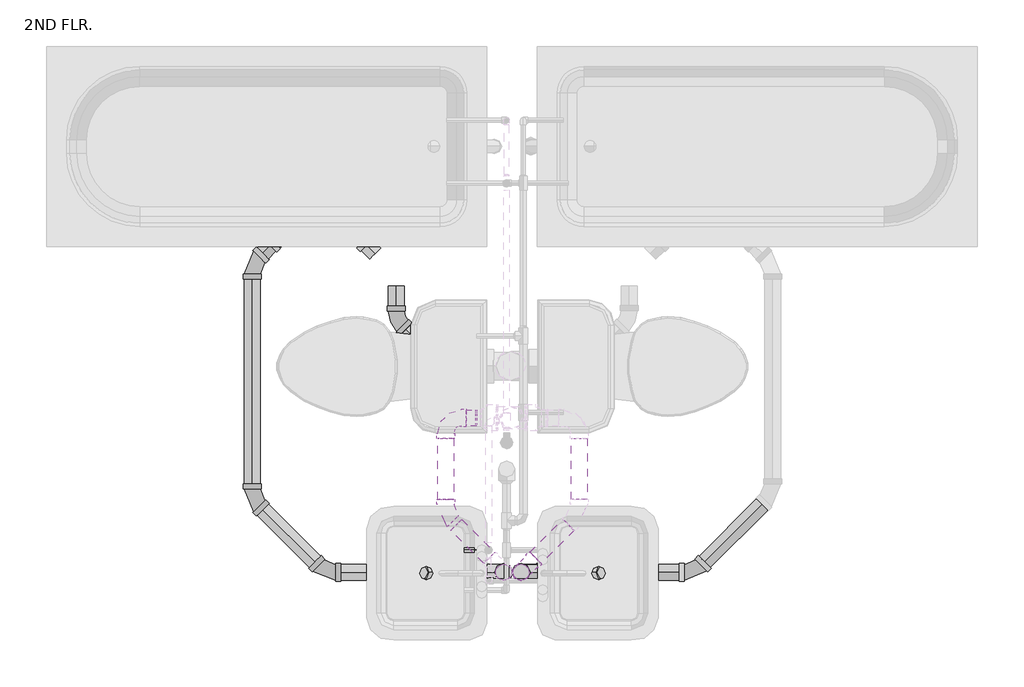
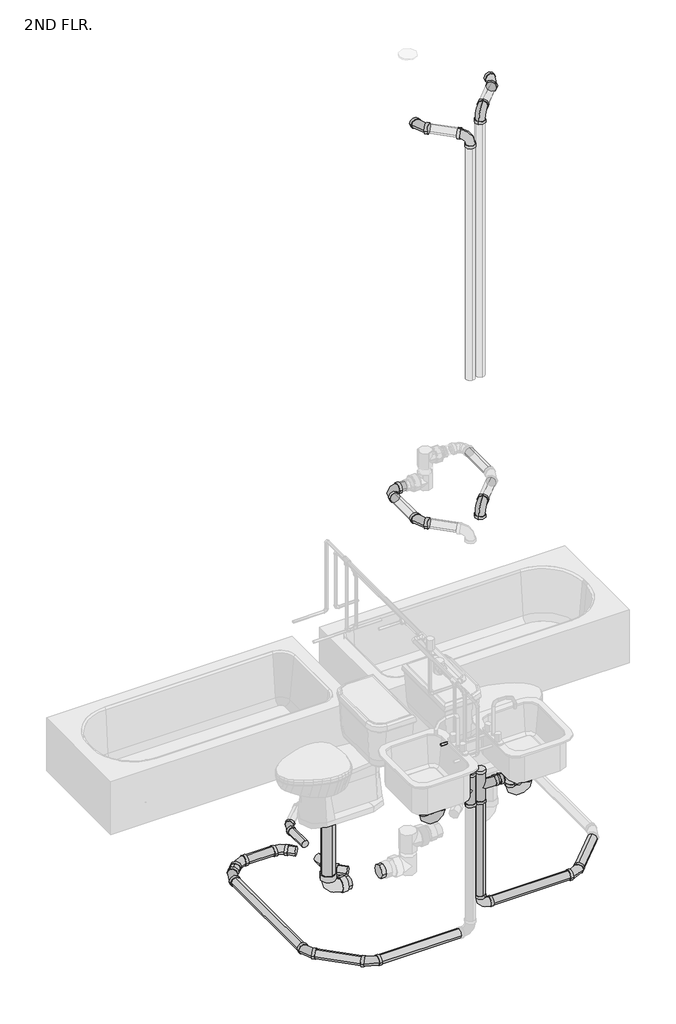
# One storey, part 2 of 15: 33 pipe segments, 22 pipe fittings.
"""IFC4 building model written with IfcOpenShell, lengths in millimetres."""

from ifc_helpers import new_model, si_unit, point, frame, frame_2d, origin, place, context, project, spatial, circle_curve, trimmed, segment, composite_curve, outline, extrude, transform, mapped, element, save
from components import bend_pvc_sch_40_dwv_standard_e59a9f3a, bend_pvc_sch_40_dwv_standard_f2f5988a, bend_pvc_sch_40_dwv_standard_1eaeee76, bend_pvc_sch_40_dwv_standard_dc84db8a, bend_pvc_sch_40_dwv_standard_64a347df, bend_pvc_sch_40_dwv_standard_72717ed5, bend_pvc_sch_40_dwv_standard_49f8c181, bend_pvc_sch_40_dwv_standard_f64d1520, ges_wye_45_deg_reducing_pvc_sch_40_dwv_standard_31e91cc2, ges_wye_45_deg_reducing_pvc_sch_40_dwv_standard_a2c526eb, standard_73d07651, standard_8c31f35f

model = new_model("IFC4")

# Units and contexts
model_context = context("Model", 3, world=origin())
ifc_project = project(units=[si_unit("LENGTHUNIT", "METRE", prefix="MILLI")], contexts=[model_context])

# Site, building, storey
site = spatial("IfcSite", under=ifc_project)
building = spatial("IfcBuilding", under=site)
storey = spatial("IfcBuildingStorey", under=building, Name="2ND FLR.", Elevation=2844.8)

# Pipe fittings
placement = place(None, origin())
bend_pvc_sch_40_dwv_standard_shape = bend_pvc_sch_40_dwv_standard_e59a9f3a(model_context)
element("IfcPipeFitting", 1, ObjectType="Bend - PVC - Sch 40 - DWV : Standard", at=placement, inside=storey, context=model_context, shape_type="MappedRepresentation", body=[
    mapped(bend_pvc_sch_40_dwv_standard_shape, transform((1676.2806203, 3984.74622, 2303.9212536), x_axis=(-0.7071067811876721, -0.7071067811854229, 0.0), y_axis=(0.7071067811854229, -0.7071067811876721, 0.0), z_axis=(0.0, 0.0, 1.0))),
])
bend_pvc_sch_40_dwv_standard_2_shape = bend_pvc_sch_40_dwv_standard_f2f5988a(model_context)
element("IfcPipeFitting", 2, ObjectType="Bend - PVC - Sch 40 - DWV : Standard", at=placement, inside=storey, context=model_context, shape_type="MappedRepresentation", body=[
    mapped(bend_pvc_sch_40_dwv_standard_2_shape, transform((1407.2763671, 2535.4262323, 2303.4769275), x_axis=(0.7071067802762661, -0.7071067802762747, -5.074103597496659e-05), y_axis=(0.7071067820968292, 0.7071067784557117, 5.074103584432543e-05), z_axis=(0.0, -7.175866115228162e-05, 0.9999999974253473))),
])
element("IfcPipeFitting", 3, ObjectType="Bend - PVC - Sch 40 - DWV : Standard", at=placement, inside=storey, context=model_context, shape_type="MappedRepresentation", body=[
    mapped(bend_pvc_sch_40_dwv_standard_2_shape, transform((1127.6578381, 2815.3735586, 2303.8952447), x_axis=(0.0, -1.0, 0.0), y_axis=(0.9999999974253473, 0.0, -7.175866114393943e-05), z_axis=(7.175866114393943e-05, 0.0, 0.9999999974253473))),
])
element("IfcPipeFitting", 4, ObjectType="Bend - PVC - Sch 40 - DWV : Standard", at=placement, inside=storey, context=model_context, shape_type="MappedRepresentation", body=[
    mapped(bend_pvc_sch_40_dwv_standard_2_shape, transform((1127.6578381, 3711.4802538, 2303.8952447), x_axis=(-0.707106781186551, -0.707106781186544, 0.0), y_axis=(0.707106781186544, -0.707106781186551, 0.0), z_axis=(0.0, 0.0, 1.0))),
])
element("IfcPipeFitting", 5, ObjectType="Bend - PVC - Sch 40 - DWV : Standard", at=placement, inside=storey, context=model_context, shape_type="MappedRepresentation", body=[
    mapped(bend_pvc_sch_40_dwv_standard_2_shape, transform((1237.3759139, 3821.1983296, 2303.8952447), x_axis=(-1.0, 0.0, 0.0), y_axis=(0.0, -1.0, 0.0), z_axis=(0.0, 0.0, 1.0))),
])
element("IfcPipeFitting", 6, ObjectType="Bend - PVC - Sch 40 - DWV : Standard", at=placement, inside=storey, context=model_context, shape_type="MappedRepresentation", body=[
    mapped(bend_pvc_sch_40_dwv_standard_2_shape, transform((1864.3084882, 2756.9682177, 8039.1613447), x_axis=(2.761384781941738e-10, -0.9999999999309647, 1.1750347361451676e-05), y_axis=(0.9999999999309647, 1.3806781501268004e-10, -1.1750347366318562e-05), z_axis=(1.1750347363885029e-05, 1.175034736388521e-05, 0.9999999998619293))),
])
element("IfcPipeFitting", 7, ObjectType="Bend - PVC - Sch 40 - DWV : Standard", at=placement, inside=storey, context=model_context, shape_type="MappedRepresentation", body=[
    mapped(bend_pvc_sch_40_dwv_standard_2_shape, transform((1864.3084882, 2756.9013629, 5188.0113455), x_axis=(2.761384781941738e-10, -0.9999999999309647, 1.1750347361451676e-05), y_axis=(0.9999999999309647, 1.3806781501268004e-10, -1.1750347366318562e-05), z_axis=(1.1750347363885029e-05, 1.175034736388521e-05, 0.9999999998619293))),
])
bend_pvc_sch_40_dwv_standard_3_shape = bend_pvc_sch_40_dwv_standard_1eaeee76(model_context)
element("IfcPipeFitting", 8, ObjectType="Bend - PVC - Sch 40 - DWV : Standard", at=placement, inside=storey, context=model_context, shape_type="MappedRepresentation", body=[
    mapped(bend_pvc_sch_40_dwv_standard_3_shape, transform((2085.2449931, 2535.844278, 8039.0947608), x_axis=(0.0, 0.0, 1.0), y_axis=(-0.7071067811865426, 0.7071067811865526, 0.0), z_axis=(-0.7071067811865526, -0.7071067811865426, 0.0))),
])
bend_pvc_sch_40_dwv_standard_4_shape = bend_pvc_sch_40_dwv_standard_dc84db8a(model_context)
element("IfcPipeFitting", 9, ObjectType="Bend - PVC - Sch 40 - DWV : Standard", at=placement, inside=storey, context=model_context, shape_type="MappedRepresentation", body=[
    mapped(bend_pvc_sch_40_dwv_standard_4_shape, transform((1565.9080231, 3321.8387881, 2302.8699315), x_axis=(-0.9999739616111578, 0.0, -0.0072163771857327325), y_axis=(-0.0072163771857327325, 0.0, 0.9999739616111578), z_axis=(0.0, 1.0, 0.0))),
])
bend_pvc_sch_40_dwv_standard_5_shape = bend_pvc_sch_40_dwv_standard_64a347df(model_context)
element("IfcPipeFitting", 10, ObjectType="Bend - PVC - Sch 40 - DWV : Standard", at=placement, inside=storey, context=model_context, shape_type="MappedRepresentation", body=[
    mapped(bend_pvc_sch_40_dwv_standard_5_shape, transform((1676.2806203, 3498.1957368, 2303.9212536), x_axis=(0.0, -1.0, 0.0), y_axis=(0.9999186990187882, 0.0, 0.012751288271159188), z_axis=(-0.012751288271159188, 0.0, 0.9999186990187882))),
])
bend_pvc_sch_40_dwv_standard_6_shape = bend_pvc_sch_40_dwv_standard_72717ed5(model_context)
element("IfcPipeFitting", 11, ObjectType="Bend - PVC - Sch 40 - DWV : Standard", at=placement, inside=storey, context=model_context, shape_type="MappedRepresentation", body=[
    mapped(bend_pvc_sch_40_dwv_standard_6_shape, transform((1525.8654903, 3819.5043328, 2302.6162639), x_axis=(-0.7071067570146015, 0.7071067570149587, 0.00026147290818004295), y_axis=(-0.707106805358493, -0.7071067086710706, -0.0002614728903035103), z_axis=(0.0, -0.00036977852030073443, 0.9999999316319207))),
])
bend_pvc_sch_40_dwv_standard_7_shape = bend_pvc_sch_40_dwv_standard_49f8c181(model_context)
element("IfcPipeFitting", 12, ObjectType="Bend - PVC - Sch 40 - DWV : Standard", at=placement, inside=storey, context=model_context, shape_type="MappedRepresentation", body=[
    mapped(bend_pvc_sch_40_dwv_standard_7_shape, transform((2151.4347258, 2535.7849043, 2461.5904025), x_axis=(0.0, 0.0, -1.0), y_axis=(-1.0, 0.0, 0.0), z_axis=(0.0, 1.0, 0.0))),
])
element("IfcPipeFitting", 13, ObjectType="Bend - PVC - Sch 40 - DWV : Standard", at=placement, inside=storey, context=model_context, shape_type="MappedRepresentation", body=[
    mapped(bend_pvc_sch_40_dwv_standard_7_shape, transform((1864.3084875, 3124.2843904, 5188.0070013), x_axis=(0.0, 0.9999999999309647, -1.1750347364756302e-05), y_axis=(-1.0, 0.0, 0.0), z_axis=(0.0, 1.1750347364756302e-05, 0.9999999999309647))),
])
element("IfcPipeFitting", 14, ObjectType="Bend - PVC - Sch 40 - DWV : Standard", at=placement, inside=storey, context=model_context, shape_type="MappedRepresentation", body=[
    mapped(bend_pvc_sch_40_dwv_standard_7_shape, transform((2151.4348028, 2535.7814571, 8191.495709), x_axis=(0.0, 0.0, 1.0), y_axis=(-0.7071067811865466, -0.7071067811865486, 0.0), z_axis=(0.7071067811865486, -0.7071067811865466, 0.0))),
])
element("IfcPipeFitting", 15, ObjectType="Bend - PVC - Sch 40 - DWV : Standard", at=placement, inside=storey, context=model_context, shape_type="MappedRepresentation", body=[
    mapped(bend_pvc_sch_40_dwv_standard_7_shape, transform((2151.4348028, 2535.7814571, 5340.345709), x_axis=(0.0, 0.0, 1.0), y_axis=(-0.7071067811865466, -0.7071067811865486, 0.0), z_axis=(0.7071067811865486, -0.7071067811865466, 0.0))),
])
element("IfcPipeFitting", 16, ObjectType="Bend - PVC - Sch 40 - DWV : Standard", at=placement, inside=storey, context=model_context, shape_type="MappedRepresentation", body=[
    mapped(bend_pvc_sch_40_dwv_standard_7_shape, transform((1864.3084875, 3124.2539231, 5187.9916847), x_axis=(0.0, 0.9999999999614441, -8.78134569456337e-06), y_axis=(-1.0000000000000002, 0.0, 0.0), z_axis=(0.0, 8.78134569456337e-06, 0.9999999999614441))),
])
bend_pvc_sch_40_dwv_standard_8_shape = bend_pvc_sch_40_dwv_standard_f64d1520(model_context)
element("IfcPipeFitting", 17, ObjectType="Bend - PVC - Sch 40 - DWV : Standard", at=placement, inside=storey, context=model_context, shape_type="MappedRepresentation", body=[
    mapped(bend_pvc_sch_40_dwv_standard_8_shape, transform((2809.9937605, 2535.4334772, 2461.1578227), x_axis=(-0.70710678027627, -0.7071067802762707, -5.074103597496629e-05), y_axis=(0.7071067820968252, -0.7071067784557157, -5.074103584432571e-05), z_axis=(0.0, -7.175866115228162e-05, 0.9999999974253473))),
])
element("IfcPipeFitting", 18, ObjectType="Bend - PVC - Sch 40 - DWV : Standard", at=placement, inside=storey, context=model_context, shape_type="MappedRepresentation", body=[
    mapped(bend_pvc_sch_40_dwv_standard_8_shape, transform((2372.3084882, 2756.8461575, 8191.5613461), x_axis=(2.761384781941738e-10, -0.9999999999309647, 1.1750347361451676e-05), y_axis=(0.9999999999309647, 1.3806781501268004e-10, -1.1750347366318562e-05), z_axis=(1.1750347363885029e-05, 1.175034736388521e-05, 0.9999999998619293))),
])
ges_wye_45_deg_reducing_pvc_sch_40_dwv_standard_shape = ges_wye_45_deg_reducing_pvc_sch_40_dwv_standard_31e91cc2(model_context)
element("IfcPipeFitting", 19, ObjectType="GES Wye 45 Deg Reducing - PVC - Sch 40 - DWV : Standard", at=placement, inside=storey, context=model_context, shape_type="MappedRepresentation", body=[
    mapped(ges_wye_45_deg_reducing_pvc_sch_40_dwv_standard_shape, transform((2085.1822491, 2535.781534, 3322.6721683), x_axis=(0.0, 0.0, 1.0), y_axis=(1.0, 0.0, 0.0), z_axis=(0.0, 1.0, 0.0))),
])
ges_wye_45_deg_reducing_pvc_sch_40_dwv_standard_2_shape = ges_wye_45_deg_reducing_pvc_sch_40_dwv_standard_a2c526eb(model_context)
element("IfcPipeFitting", 20, ObjectType="GES Wye 45 Deg Reducing - PVC - Sch 40 - DWV : Standard", at=placement, inside=storey, context=model_context, shape_type="MappedRepresentation", body=[
    mapped(ges_wye_45_deg_reducing_pvc_sch_40_dwv_standard_2_shape, transform((2151.4347258, 2535.781534, 3322.6721683), x_axis=(0.0, 0.0, 1.0), y_axis=(1.0, 0.0, 0.0), z_axis=(0.0, 1.0, 0.0))),
])
standard_shape = standard_73d07651(model_context)
element("IfcPipeFitting", 21, ObjectType="GES P TRAP PVC Sch 40 - DWV : Standard", at=placement, inside=storey, context=model_context, shape_type="MappedRepresentation", body=[
    mapped(standard_shape, transform((1765.3699643, 2535.781534, 3322.6721683), x_axis=(0.0, 0.0, -1.0), y_axis=(1.0, 0.0, 0.0), z_axis=(0.0, -1.0, 0.0))),
])
standard_2_shape = standard_8c31f35f(model_context)
element("IfcPipeFitting", 22, ObjectType="GES P TRAP PVC Sch 40 - DWV : Standard", at=placement, inside=storey, context=model_context, shape_type="MappedRepresentation", body=[
    mapped(standard_2_shape, transform((2471.2470106, 2535.781534, 3322.6721683), x_axis=(0.0, 0.0, -1.0), y_axis=(1.0, 0.0, 0.0), z_axis=(0.0, -1.0, 0.0))),
])

# Pipe segments
element("IfcPipeSegment", 23, ObjectType="Copper", at=placement, inside=storey, context=model_context, shape_type="SweptSolid", body=[
    extrude(outline(composite_curve([segment(trimmed(circle_curve(frame_2d((2620.8535326, 3637.2601562)), 7.9375), [point((2628.7910326, 3637.2601562))], [point((2620.8535326, 3629.3226562))], False, "CARTESIAN"), True, "CONTINUOUS"), segment(trimmed(circle_curve(frame_2d((2620.8535326, 3637.2601562)), 7.9375), [point((2620.8535326, 3629.3226562))], [point((2612.9160326, 3637.2601562))], False, "CARTESIAN"), True, "CONTINUOUS"), segment(trimmed(circle_curve(frame_2d((2620.8535326, 3637.2601562)), 7.9375), [point((2612.9160326, 3637.2601562))], [point((2620.8535326, 3645.1976562))], False, "CARTESIAN"), True, "CONTINUOUS"), segment(trimmed(circle_curve(frame_2d((2620.8535326, 3637.2601562)), 7.9375), [point((2620.8535326, 3645.1976562))], [point((2628.7910326, 3637.2601562))], False, "CARTESIAN"), True, "CONTINUOUS")], self_intersect=False)), frame((1934.1584875, 0.0, 0.0), z_axis=(1.0, 0.0, 0.0), x_axis=(0.0, 1.0, 0.0)), (0.0, 0.0, 1.0), 76.2),
])
element("IfcPipeSegment", 24, ObjectType="PVC - SAN/STORM", at=placement, inside=storey, context=model_context, shape_type="SweptSolid", body=[
    extrude(outline(composite_curve([segment(trimmed(circle_curve(frame_2d((2471.2470106, 2535.781534)), 30.1625), [point((2441.0845106, 2535.781534))], [point((2471.2470106, 2565.944034))], False, "CARTESIAN"), True, "CONTINUOUS"), segment(trimmed(circle_curve(frame_2d((2471.2470106, 2535.781534)), 30.1625), [point((2471.2470106, 2565.944034))], [point((2501.4095106, 2535.781534))], False, "CARTESIAN"), True, "CONTINUOUS"), segment(trimmed(circle_curve(frame_2d((2471.2470106, 2535.781534)), 30.1625), [point((2501.4095106, 2535.781534))], [point((2471.2470106, 2505.619034))], False, "CARTESIAN"), True, "CONTINUOUS"), segment(trimmed(circle_curve(frame_2d((2471.2470106, 2535.781534)), 30.1625), [point((2471.2470106, 2505.619034))], [point((2441.0845106, 2535.781534))], False, "CARTESIAN"), True, "CONTINUOUS")], self_intersect=False)), frame((0.0, 0.0, 3275.0471683), z_axis=(0.0, 0.0, 1.0), x_axis=(1.0, 0.0, 0.0)), (0.0, 0.0, 1.0), 143.9539175),
])
element("IfcPipeSegment", 25, ObjectType="PVC - SAN/STORM", at=placement, inside=storey, context=model_context, shape_type="SweptSolid", body=[
    extrude(outline(composite_curve([segment(trimmed(circle_curve(frame_2d((2535.781534, 3322.6721683)), 30.1625), [point((2565.944034, 3322.6721683))], [point((2535.781534, 3292.5096683))], False, "CARTESIAN"), True, "CONTINUOUS"), segment(trimmed(circle_curve(frame_2d((2535.781534, 3322.6721683)), 30.1625), [point((2535.781534, 3292.5096683))], [point((2505.619034, 3322.6721683))], False, "CARTESIAN"), True, "CONTINUOUS"), segment(trimmed(circle_curve(frame_2d((2535.781534, 3322.6721683)), 30.1625), [point((2505.619034, 3322.6721683))], [point((2535.781534, 3352.8346683))], False, "CARTESIAN"), True, "CONTINUOUS"), segment(trimmed(circle_curve(frame_2d((2535.781534, 3322.6721683)), 30.1625), [point((2535.781534, 3352.8346683))], [point((2565.944034, 3322.6721683))], False, "CARTESIAN"), True, "CONTINUOUS")], self_intersect=False)), frame((2264.6830071, 0.0, 0.0), z_axis=(1.0, 0.0, 0.0), x_axis=(0.0, 1.0, 0.0)), (0.0, 0.0, 1.0), 14.4765036),
])
element("IfcPipeSegment", 26, ObjectType="PVC - SAN/STORM", at=placement, inside=storey, context=model_context, shape_type="SweptSolid", body=[
    extrude(outline(composite_curve([segment(trimmed(circle_curve(frame_2d((2471.2470106, 2535.781534)), 30.1625), [point((2441.0845106, 2535.781534))], [point((2471.2470106, 2565.944034))], False, "CARTESIAN"), True, "CONTINUOUS"), segment(trimmed(circle_curve(frame_2d((2471.2470106, 2535.781534)), 30.1625), [point((2471.2470106, 2565.944034))], [point((2501.4095106, 2535.781534))], False, "CARTESIAN"), True, "CONTINUOUS"), segment(trimmed(circle_curve(frame_2d((2471.2470106, 2535.781534)), 30.1625), [point((2501.4095106, 2535.781534))], [point((2471.2470106, 2505.619034))], False, "CARTESIAN"), True, "CONTINUOUS"), segment(trimmed(circle_curve(frame_2d((2471.2470106, 2535.781534)), 30.1625), [point((2471.2470106, 2505.619034))], [point((2441.0845106, 2535.781534))], False, "CARTESIAN"), True, "CONTINUOUS")], self_intersect=False)), frame((0.0, 0.0, 3275.0471683), z_axis=(0.0, 0.0, 1.0), x_axis=(1.0, 0.0, 0.0)), (0.0, 0.0, 1.0), 143.9539175),
])
element("IfcPipeSegment", 27, ObjectType="PVC - SAN/STORM", at=placement, inside=storey, context=model_context, shape_type="SweptSolid", body=[
    extrude(outline(composite_curve([segment(trimmed(circle_curve(frame_2d((0.0, -30.1625)), 30.1625), [point((-30.1625, -30.1625))], [point((0.0, 0.0))], False, "CARTESIAN"), True, "CONTINUOUS"), segment(trimmed(circle_curve(frame_2d((0.0, -30.1625)), 30.1625), [point((0.0, 0.0))], [point((30.1625, -30.1625))], False, "CARTESIAN"), True, "CONTINUOUS"), segment(trimmed(circle_curve(frame_2d((0.0, -30.1625)), 30.1625), [point((30.1625, -30.1625))], [point((0.0, -60.325))], False, "CARTESIAN"), True, "CONTINUOUS"), segment(trimmed(circle_curve(frame_2d((0.0, -30.1625)), 30.1625), [point((0.0, -60.325))], [point((-30.1625, -30.1625))], False, "CARTESIAN"), True, "CONTINUOUS")], self_intersect=False)), frame((2151.4347258, 2505.6224043, 2539.3904495), z_axis=(0.0, -5.070700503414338e-06, 0.9999999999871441), x_axis=(-1.0, 0.0, 0.0)), (0.0, 0.0, 1.0), 664.6556283),
])
element("IfcPipeSegment", 28, ObjectType="PVC - SAN/STORM", at=placement, inside=storey, context=model_context, shape_type="SweptSolid", body=[
    extrude(outline(composite_curve([segment(trimmed(circle_curve(frame_2d((2535.7849043, 2461.5904025)), 30.1625), [point((2505.6224043, 2461.5904025))], [point((2535.7849043, 2491.7529025))], False, "CARTESIAN"), True, "CONTINUOUS"), segment(trimmed(circle_curve(frame_2d((2535.7849043, 2461.5904025)), 30.1625), [point((2535.7849043, 2491.7529025))], [point((2565.9474043, 2461.5904025))], False, "CARTESIAN"), True, "CONTINUOUS"), segment(trimmed(circle_curve(frame_2d((2535.7849043, 2461.5904025)), 30.1625), [point((2565.9474043, 2461.5904025))], [point((2535.7849043, 2431.4279025))], False, "CARTESIAN"), True, "CONTINUOUS"), segment(trimmed(circle_curve(frame_2d((2535.7849043, 2461.5904025)), 30.1625), [point((2535.7849043, 2431.4279025))], [point((2505.6224043, 2461.5904025))], False, "CARTESIAN"), True, "CONTINUOUS")], self_intersect=False)), frame((2229.2349258, 0.0, 0.0), z_axis=(1.0, 0.0, 0.0), x_axis=(0.0, 1.0, 0.0)), (0.0, 0.0, 1.0), 523.9602929),
])
element("IfcPipeSegment", 29, ObjectType="PVC - SAN/STORM", at=placement, inside=storey, context=model_context, shape_type="SweptSolid", body=[
    extrude(outline(composite_curve([segment(trimmed(circle_curve(frame_2d((0.0, -30.1625)), 30.1625), [point((30.1625, -30.1640305))], [point((-0.0015305, -60.325))], False, "CARTESIAN"), True, "CONTINUOUS"), segment(trimmed(circle_curve(frame_2d((0.0, -30.1625)), 30.1625), [point((-0.0015305, -60.325))], [point((-30.1625, -30.1609695))], False, "CARTESIAN"), True, "CONTINUOUS"), segment(trimmed(circle_curve(frame_2d((0.0, -30.1625)), 30.1625), [point((-30.1625, -30.1609695))], [point((0.0015305, -1e-07))], False, "CARTESIAN"), True, "CONTINUOUS"), segment(trimmed(circle_curve(frame_2d((0.0, -30.1625)), 30.1625), [point((0.0015305, -1e-07))], [point((30.1625, -30.1640305))], False, "CARTESIAN"), True, "CONTINUOUS")], self_intersect=False)), frame((3068.5005336, 2794.2938419, 2491.7343523), z_axis=(-0.7071067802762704, -0.7071067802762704, 5.0741035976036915e-05), x_axis=(0.7071067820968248, -0.707106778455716, 5.0741035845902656e-05)), (0.0, 0.0, 1.0), 308.9308213),
])
element("IfcPipeSegment", 30, ObjectType="PVC - SAN/STORM", at=placement, inside=storey, context=model_context, shape_type="SweptSolid", body=[
    extrude(outline(composite_curve([segment(trimmed(circle_curve(frame_2d((5340.3463819, 2372.3084875)), 30.1625), [point((5340.3463819, 2402.4709875))], [point((5370.5088819, 2372.3084875))], False, "CARTESIAN"), True, "CONTINUOUS"), segment(trimmed(circle_curve(frame_2d((5340.3463819, 2372.3084875)), 30.1625), [point((5370.5088819, 2372.3084875))], [point((5340.3463819, 2342.1459875))], False, "CARTESIAN"), True, "CONTINUOUS"), segment(trimmed(circle_curve(frame_2d((5340.3463819, 2372.3084875)), 30.1625), [point((5340.3463819, 2342.1459875))], [point((5310.1838819, 2372.3084875))], False, "CARTESIAN"), True, "CONTINUOUS"), segment(trimmed(circle_curve(frame_2d((5340.3463819, 2372.3084875)), 30.1625), [point((5310.1838819, 2372.3084875))], [point((5340.3463819, 2402.4709875))], False, "CARTESIAN"), True, "CONTINUOUS")], self_intersect=False)), frame((0.0, 2813.929302, 0.0), z_axis=(0.0, 1.0, 0.0), x_axis=(0.0, 0.0, 1.0)), (0.0, 0.0, 1.0), 232.5584692),
])
element("IfcPipeSegment", 31, ObjectType="PVC - SAN/STORM", at=placement, inside=storey, context=model_context, shape_type="SweptSolid", body=[
    extrude(outline(composite_curve([segment(trimmed(circle_curve(frame_2d((0.0, -44.45)), 44.45), [point((0.0, 0.0))], [point((44.45, -44.45))], False, "CARTESIAN"), True, "CONTINUOUS"), segment(trimmed(circle_curve(frame_2d((0.0, -44.45)), 44.45), [point((44.45, -44.45))], [point((0.0, -88.9))], False, "CARTESIAN"), True, "CONTINUOUS"), segment(trimmed(circle_curve(frame_2d((0.0, -44.45)), 44.45), [point((0.0, -88.9))], [point((-44.45, -44.45))], False, "CARTESIAN"), True, "CONTINUOUS"), segment(trimmed(circle_curve(frame_2d((0.0, -44.45)), 44.45), [point((-44.45, -44.45))], [point((0.0, 0.0))], False, "CARTESIAN"), True, "CONTINUOUS")], self_intersect=False)), frame((1912.9609983, 3366.2887881, 2305.3744619), z_axis=(0.9999739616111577, 0.0, 0.0072163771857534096), x_axis=(0.0072163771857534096, 0.0, -0.9999739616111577)), (0.0, 0.0, 1.0), 27.3382317),
])
element("IfcPipeSegment", 32, ObjectType="PVC - SAN/STORM", at=placement, inside=storey, context=model_context, shape_type="SweptSolid", body=[
    extrude(outline(composite_curve([segment(trimmed(circle_curve(frame_2d((1565.9080231, 3321.8387881)), 44.45), [point((1521.4580231, 3321.8387881))], [point((1565.9080231, 3366.2887881))], False, "CARTESIAN"), True, "CONTINUOUS"), segment(trimmed(circle_curve(frame_2d((1565.9080231, 3321.8387881)), 44.45), [point((1565.9080231, 3366.2887881))], [point((1610.3580231, 3321.8387881))], False, "CARTESIAN"), True, "CONTINUOUS"), segment(trimmed(circle_curve(frame_2d((1565.9080231, 3321.8387881)), 44.45), [point((1610.3580231, 3321.8387881))], [point((1565.9080231, 3277.3887881))], False, "CARTESIAN"), True, "CONTINUOUS"), segment(trimmed(circle_curve(frame_2d((1565.9080231, 3321.8387881)), 44.45), [point((1565.9080231, 3277.3887881))], [point((1521.4580231, 3321.8387881))], False, "CARTESIAN"), True, "CONTINUOUS")], self_intersect=False)), frame((0.0, 0.0, 2418.7701315), z_axis=(0.0, 0.0, 1.0), x_axis=(1.0, 0.0, 0.0)), (0.0, 0.0, 1.0), 426.0298685),
])
element("IfcPipeSegment", 33, ObjectType="PVC - SAN/STORM", at=placement, inside=storey, context=model_context, shape_type="SweptSolid", body=[
    extrude(outline(composite_curve([segment(trimmed(circle_curve(frame_2d((0.0, 30.1625)), 30.1625), [point((30.1625, 30.1625))], [point((0.0, 0.0))], False, "CARTESIAN"), True, "CONTINUOUS"), segment(trimmed(circle_curve(frame_2d((0.0, 30.1625)), 30.1625), [point((0.0, 0.0))], [point((-30.1625, 30.1625))], False, "CARTESIAN"), True, "CONTINUOUS"), segment(trimmed(circle_curve(frame_2d((0.0, 30.1625)), 30.1625), [point((-30.1625, 30.1625))], [point((0.0, 60.325))], False, "CARTESIAN"), True, "CONTINUOUS"), segment(trimmed(circle_curve(frame_2d((0.0, 30.1625)), 30.1625), [point((0.0, 60.325))], [point((30.1625, 30.1625))], False, "CARTESIAN"), True, "CONTINUOUS")], self_intersect=False)), frame((1756.0996451, 3418.376712, 2334.5562404), z_axis=(-0.7071067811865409, 0.7071067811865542, 0.0), x_axis=(0.7071067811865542, 0.7071067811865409, 0.0)), (0.0, 0.0, 1.0), 60.4830776),
])
element("IfcPipeSegment", 34, ObjectType="PVC - SAN/STORM", at=placement, inside=storey, context=model_context, shape_type="SweptSolid", body=[
    extrude(outline(composite_curve([segment(trimmed(circle_curve(frame_2d((0.0, 44.45)), 44.45), [point((0.0, 0.0))], [point((-44.45, 44.45))], False, "CARTESIAN"), True, "CONTINUOUS"), segment(trimmed(circle_curve(frame_2d((0.0, 44.45)), 44.45), [point((-44.45, 44.45))], [point((0.0, 88.9))], False, "CARTESIAN"), True, "CONTINUOUS"), segment(trimmed(circle_curve(frame_2d((0.0, 44.45)), 44.45), [point((0.0, 88.9))], [point((44.4499999, 44.45))], False, "CARTESIAN"), True, "CONTINUOUS"), segment(trimmed(circle_curve(frame_2d((0.0, 44.45)), 44.45), [point((44.4499999, 44.45))], [point((0.0, 0.0))], False, "CARTESIAN"), True, "CONTINUOUS")], self_intersect=False)), frame((1681.8052053, 3277.3887881, 2303.706311), z_axis=(0.9999739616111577, 0.0, 0.007216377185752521), x_axis=(0.007216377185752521, 0.0, -0.9999739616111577)), (0.0, 0.0, 1.0), 25.406322),
])
element("IfcPipeSegment", 35, ObjectType="PVC - SAN/STORM", at=placement, inside=storey, context=model_context, shape_type="SweptSolid", body=[
    extrude(outline(composite_curve([segment(trimmed(circle_curve(frame_2d((0.0, 24.13)), 24.13), [point((0.0, 48.26))], [point((24.13, 24.13))], False, "CARTESIAN"), True, "CONTINUOUS"), segment(trimmed(circle_curve(frame_2d((0.0, 24.13)), 24.13), [point((24.13, 24.13))], [point((0.0, 0.0))], False, "CARTESIAN"), True, "CONTINUOUS"), segment(trimmed(circle_curve(frame_2d((0.0, 24.13)), 24.13), [point((0.0, 0.0))], [point((-24.13, 24.13))], False, "CARTESIAN"), True, "CONTINUOUS"), segment(trimmed(circle_curve(frame_2d((0.0, 24.13)), 24.13), [point((-24.13, 24.13))], [point((0.0, 48.26))], False, "CARTESIAN"), True, "CONTINUOUS")], self_intersect=False)), frame((1652.1506203, 3787.8089371, 2303.9212536), z_axis=(2.0643136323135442e-12, 1.0, 0.0), x_axis=(0.0, 0.0, 1.0)), (0.0, 0.0, 1.0), 150.9124829),
])
element("IfcPipeSegment", 36, ObjectType="PVC - SAN/STORM", at=placement, inside=storey, context=model_context, shape_type="SweptSolid", body=[
    extrude(outline(composite_curve([segment(trimmed(circle_curve(frame_2d((2535.781534, 3322.6721683)), 30.1625), [point((2505.619034, 3322.6721683))], [point((2535.781534, 3352.8346683))], False, "CARTESIAN"), True, "CONTINUOUS"), segment(trimmed(circle_curve(frame_2d((2535.781534, 3322.6721683)), 30.1625), [point((2535.781534, 3352.8346683))], [point((2565.944034, 3322.6721683))], False, "CARTESIAN"), True, "CONTINUOUS"), segment(trimmed(circle_curve(frame_2d((2535.781534, 3322.6721683)), 30.1625), [point((2565.944034, 3322.6721683))], [point((2535.781534, 3292.5096683))], False, "CARTESIAN"), True, "CONTINUOUS"), segment(trimmed(circle_curve(frame_2d((2535.781534, 3322.6721683)), 30.1625), [point((2535.781534, 3292.5096683))], [point((2505.619034, 3322.6721683))], False, "CARTESIAN"), True, "CONTINUOUS")], self_intersect=False)), frame((1957.4574643, 0.0, 0.0), z_axis=(1.0, 0.0, 0.0), x_axis=(0.0, 1.0, 0.0)), (0.0, 0.0, 1.0), 14.4765036),
])
element("IfcPipeSegment", 37, ObjectType="PVC - SAN/STORM", at=placement, inside=storey, context=model_context, shape_type="SweptSolid", body=[
    extrude(outline(composite_curve([segment(trimmed(circle_curve(frame_2d((1765.3699643, 2535.781534)), 30.1625), [point((1735.2074643, 2535.781534))], [point((1765.3699643, 2565.944034))], False, "CARTESIAN"), True, "CONTINUOUS"), segment(trimmed(circle_curve(frame_2d((1765.3699643, 2535.781534)), 30.1625), [point((1765.3699643, 2565.944034))], [point((1795.5324643, 2535.781534))], False, "CARTESIAN"), True, "CONTINUOUS"), segment(trimmed(circle_curve(frame_2d((1765.3699643, 2535.781534)), 30.1625), [point((1795.5324643, 2535.781534))], [point((1765.3699643, 2505.619034))], False, "CARTESIAN"), True, "CONTINUOUS"), segment(trimmed(circle_curve(frame_2d((1765.3699643, 2535.781534)), 30.1625), [point((1765.3699643, 2505.619034))], [point((1735.2074643, 2535.781534))], False, "CARTESIAN"), True, "CONTINUOUS")], self_intersect=False)), frame((0.0, 0.0, 3275.0471683), z_axis=(0.0, 0.0, 1.0), x_axis=(1.0, 0.0, 0.0)), (0.0, 0.0, 1.0), 143.9539175),
])
element("IfcPipeSegment", 38, ObjectType="PVC - SAN/STORM", at=placement, inside=storey, context=model_context, shape_type="SweptSolid", body=[
    extrude(outline(composite_curve([segment(trimmed(circle_curve(frame_2d((2535.7550295, 2303.90951)), 30.1625), [point((2565.9175295, 2303.90951))], [point((2535.7550295, 2273.74701))], False, "CARTESIAN"), True, "CONTINUOUS"), segment(trimmed(circle_curve(frame_2d((2535.7550295, 2303.90951)), 30.1625), [point((2535.7550295, 2273.74701))], [point((2505.5925295, 2303.90951))], False, "CARTESIAN"), True, "CONTINUOUS"), segment(trimmed(circle_curve(frame_2d((2535.7550295, 2303.90951)), 30.1625), [point((2505.5925295, 2303.90951))], [point((2535.7550295, 2334.07201))], False, "CARTESIAN"), True, "CONTINUOUS"), segment(trimmed(circle_curve(frame_2d((2535.7550295, 2303.90951)), 30.1625), [point((2535.7550295, 2334.07201))], [point((2565.9175295, 2303.90951))], False, "CARTESIAN"), True, "CONTINUOUS")], self_intersect=False)), frame((1464.0975388, 0.0, 0.0), z_axis=(1.0, 0.0, 0.0), x_axis=(0.0, 1.0, 0.0)), (0.0, 0.0, 1.0), 543.2845103),
])
element("IfcPipeSegment", 39, ObjectType="PVC - SAN/STORM", at=placement, inside=storey, context=model_context, shape_type="SweptSolid", body=[
    extrude(outline(composite_curve([segment(trimmed(circle_curve(frame_2d((-1e-07, -30.1625)), 30.1625), [point((30.1624999, -30.1609695))], [point((0.0015304, -60.3249999))], False, "CARTESIAN"), True, "CONTINUOUS"), segment(trimmed(circle_curve(frame_2d((-1e-07, -30.1625)), 30.1625), [point((0.0015304, -60.3249999))], [point((-30.1625, -30.1640305))], False, "CARTESIAN"), True, "CONTINUOUS"), segment(trimmed(circle_curve(frame_2d((-1e-07, -30.1625)), 30.1625), [point((-30.1625, -30.1640305))], [point((-0.0015305, 0.0))], False, "CARTESIAN"), True, "CONTINUOUS"), segment(trimmed(circle_curve(frame_2d((-1e-07, -30.1625)), 30.1625), [point((-0.0015305, 0.0))], [point((30.1624999, -30.1609695))], False, "CARTESIAN"), True, "CONTINUOUS")], self_intersect=False)), frame((1168.0689906, 2774.9645705, 2334.0548447), z_axis=(0.7071067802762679, -0.7071067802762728, 5.0741035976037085e-05), x_axis=(0.7071067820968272, 0.7071067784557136, -5.0741035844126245e-05)), (0.0, 0.0, 1.0), 281.6053493),
])
element("IfcPipeSegment", 40, ObjectType="PVC - SAN/STORM", at=placement, inside=storey, context=model_context, shape_type="SweptSolid", body=[
    extrude(outline(composite_curve([segment(trimmed(circle_curve(frame_2d((2303.8952447, 1127.6578381)), 30.1625), [point((2303.8952447, 1157.8203381))], [point((2334.0577447, 1127.6578381))], False, "CARTESIAN"), True, "CONTINUOUS"), segment(trimmed(circle_curve(frame_2d((2303.8952447, 1127.6578381)), 30.1625), [point((2334.0577447, 1127.6578381))], [point((2303.8952447, 1097.4953381))], False, "CARTESIAN"), True, "CONTINUOUS"), segment(trimmed(circle_curve(frame_2d((2303.8952447, 1127.6578381)), 30.1625), [point((2303.8952447, 1097.4953381))], [point((2273.7327447, 1127.6578381))], False, "CARTESIAN"), True, "CONTINUOUS"), segment(trimmed(circle_curve(frame_2d((2303.8952447, 1127.6578381)), 30.1625), [point((2273.7327447, 1127.6578381))], [point((2303.8952447, 1157.8203381))], False, "CARTESIAN"), True, "CONTINUOUS")], self_intersect=False)), frame((0.0, 2872.5235586, 0.0), z_axis=(0.0, 1.0, 0.0), x_axis=(0.0, 0.0, 1.0)), (0.0, 0.0, 1.0), 781.8066952),
])
element("IfcPipeSegment", 41, ObjectType="PVC - SAN/STORM", at=placement, inside=storey, context=model_context, shape_type="SweptSolid", body=[
    extrude(outline(composite_curve([segment(trimmed(circle_curve(frame_2d((0.0, 30.1625)), 30.1625), [point((30.1625, 30.1625))], [point((0.0, 0.0))], False, "CARTESIAN"), True, "CONTINUOUS"), segment(trimmed(circle_curve(frame_2d((0.0, 30.1625)), 30.1625), [point((0.0, 0.0))], [point((-30.1625, 30.1625))], False, "CARTESIAN"), True, "CONTINUOUS"), segment(trimmed(circle_curve(frame_2d((0.0, 30.1625)), 30.1625), [point((-30.1625, 30.1625))], [point((0.0, 60.325))], False, "CARTESIAN"), True, "CONTINUOUS"), segment(trimmed(circle_curve(frame_2d((0.0, 30.1625)), 30.1625), [point((0.0, 60.325))], [point((30.1625, 30.1625))], False, "CARTESIAN"), True, "CONTINUOUS")], self_intersect=False)), frame((1168.0689907, 3751.8914063, 2334.0577447), z_axis=(0.7071067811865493, 0.7071067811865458, 0.0), x_axis=(0.7071067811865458, -0.7071067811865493, 0.0)), (0.0, 0.0, 1.0), 40.8647908),
])
element("IfcPipeSegment", 42, ObjectType="PVC - SAN/STORM", at=placement, inside=storey, context=model_context, shape_type="SweptSolid", body=[
    extrude(outline(composite_curve([segment(trimmed(circle_curve(frame_2d((3821.1983296, 2303.8952447)), 30.1625), [point((3791.0358296, 2303.8952447))], [point((3821.1983296, 2334.0577447))], False, "CARTESIAN"), True, "CONTINUOUS"), segment(trimmed(circle_curve(frame_2d((3821.1983296, 2303.8952447)), 30.1625), [point((3821.1983296, 2334.0577447))], [point((3851.3608296, 2303.8952447))], False, "CARTESIAN"), True, "CONTINUOUS"), segment(trimmed(circle_curve(frame_2d((3821.1983296, 2303.8952447)), 30.1625), [point((3851.3608296, 2303.8952447))], [point((3821.1983296, 2273.7327447))], False, "CARTESIAN"), True, "CONTINUOUS"), segment(trimmed(circle_curve(frame_2d((3821.1983296, 2303.8952447)), 30.1625), [point((3821.1983296, 2273.7327447))], [point((3791.0358296, 2303.8952447))], False, "CARTESIAN"), True, "CONTINUOUS")], self_intersect=False)), frame((1294.5259139, 0.0, 0.0), z_axis=(1.0, 0.0, 0.0), x_axis=(0.0, 1.0, 0.0)), (0.0, 0.0, 1.0), 177.244907),
])
element("IfcPipeSegment", 43, ObjectType="PVC - SAN/STORM", at=placement, inside=storey, context=model_context, shape_type="SweptSolid", body=[
    extrude(outline(composite_curve([segment(trimmed(circle_curve(frame_2d((0.0, -30.1625)), 30.1625), [point((30.1624989, -30.1546133))], [point((0.0078866, -60.324999))], False, "CARTESIAN"), True, "CONTINUOUS"), segment(trimmed(circle_curve(frame_2d((0.0, -30.1625)), 30.1625), [point((0.0078866, -60.324999))], [point((-30.162499, -30.1703866))], False, "CARTESIAN"), True, "CONTINUOUS"), segment(trimmed(circle_curve(frame_2d((0.0, -30.1625)), 30.1625), [point((-30.162499, -30.1703866))], [point((-0.0078866, -1.1e-06))], False, "CARTESIAN"), True, "CONTINUOUS"), segment(trimmed(circle_curve(frame_2d((0.0, -30.1625)), 30.1625), [point((-0.0078866, -1.1e-06))], [point((30.1624989, -30.1546133))], False, "CARTESIAN"), True, "CONTINUOUS")], self_intersect=False)), frame((1564.6125059, 3782.4624675, 2334.0720704), z_axis=(0.7071067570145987, -0.7071067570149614, 0.0002614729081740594), x_axis=(0.7071068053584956, 0.7071067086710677, -0.00026147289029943)), (0.0, 0.0, 1.0), 44.6742822),
])
element("IfcPipeSegment", 44, ObjectType="PVC - SAN/STORM", at=placement, inside=storey, context=model_context, shape_type="SweptSolid", body=[
    extrude(outline(composite_curve([segment(trimmed(circle_curve(frame_2d((2303.9212536, 1676.2806203)), 30.1625), [point((2303.9212536, 1706.4431203))], [point((2334.0837536, 1676.2806203))], False, "CARTESIAN"), True, "CONTINUOUS"), segment(trimmed(circle_curve(frame_2d((2303.9212536, 1676.2806203)), 30.1625), [point((2334.0837536, 1676.2806203))], [point((2303.9212536, 1646.1181203))], False, "CARTESIAN"), True, "CONTINUOUS"), segment(trimmed(circle_curve(frame_2d((2303.9212536, 1676.2806203)), 30.1625), [point((2303.9212536, 1646.1181203))], [point((2273.7587536, 1676.2806203))], False, "CARTESIAN"), True, "CONTINUOUS"), segment(trimmed(circle_curve(frame_2d((2303.9212536, 1676.2806203)), 30.1625), [point((2273.7587536, 1676.2806203))], [point((2303.9212536, 1706.4431203))], False, "CARTESIAN"), True, "CONTINUOUS")], self_intersect=False)), frame((0.0, 3550.5959368, 0.0), z_axis=(0.0, 1.0, 0.0), x_axis=(0.0, 0.0, 1.0)), (0.0, 0.0, 1.0), 76.0190441),
])
element("IfcPipeSegment", 45, ObjectType="PVC - SAN/STORM", at=placement, inside=storey, context=model_context, shape_type="SweptSolid", body=[
    extrude(outline(composite_curve([segment(trimmed(circle_curve(frame_2d((5187.9463834, 1864.3084875)), 30.1625), [point((5187.9463834, 1894.4709875))], [point((5218.1088834, 1864.3084875))], False, "CARTESIAN"), True, "CONTINUOUS"), segment(trimmed(circle_curve(frame_2d((5187.9463834, 1864.3084875)), 30.1625), [point((5218.1088834, 1864.3084875))], [point((5187.9463834, 1834.1459875))], False, "CARTESIAN"), True, "CONTINUOUS"), segment(trimmed(circle_curve(frame_2d((5187.9463834, 1864.3084875)), 30.1625), [point((5187.9463834, 1834.1459875))], [point((5157.7838834, 1864.3084875))], False, "CARTESIAN"), True, "CONTINUOUS"), segment(trimmed(circle_curve(frame_2d((5187.9463834, 1864.3084875)), 30.1625), [point((5157.7838834, 1864.3084875))], [point((5187.9463834, 1894.4709875))], False, "CARTESIAN"), True, "CONTINUOUS")], self_intersect=False)), frame((0.0, 2814.0513621, 0.0), z_axis=(0.0, 1.0, 0.0), x_axis=(0.0, 0.0, 1.0)), (0.0, 0.0, 1.0), 232.4328276),
])
element("IfcPipeSegment", 46, ObjectType="PVC - SAN/STORM", at=placement, inside=storey, context=model_context, shape_type="SweptSolid", body=[
    extrude(outline(composite_curve([segment(trimmed(circle_curve(frame_2d((3124.1638117, 5187.95)), 30.1625), [point((3154.3263117, 5187.95))], [point((3124.1638117, 5157.7875))], False, "CARTESIAN"), True, "CONTINUOUS"), segment(trimmed(circle_curve(frame_2d((3124.1638117, 5187.95)), 30.1625), [point((3124.1638117, 5157.7875))], [point((3094.0013117, 5187.95))], False, "CARTESIAN"), True, "CONTINUOUS"), segment(trimmed(circle_curve(frame_2d((3124.1638117, 5187.95)), 30.1625), [point((3094.0013117, 5187.95))], [point((3124.1638117, 5218.1125))], False, "CARTESIAN"), True, "CONTINUOUS"), segment(trimmed(circle_curve(frame_2d((3124.1638117, 5187.95)), 30.1625), [point((3124.1638117, 5218.1125))], [point((3154.3263117, 5187.95))], False, "CARTESIAN"), True, "CONTINUOUS")], self_intersect=False)), frame((1942.1086875, 0.0, 0.0), z_axis=(1.0, 0.0, 0.0), x_axis=(0.0, 1.0, 0.0)), (0.0, 0.0, 1.0), 34.7097462),
])
element("IfcPipeSegment", 47, ObjectType="PVC - SAN/STORM", at=placement, inside=storey, context=model_context, shape_type="SweptSolid", body=[
    extrude(outline(composite_curve([segment(trimmed(circle_curve(frame_2d((0.0, 30.1625)), 30.1625), [point((-30.1625, 30.1625))], [point((0.0, 60.325))], False, "CARTESIAN"), True, "CONTINUOUS"), segment(trimmed(circle_curve(frame_2d((0.0, 30.1625)), 30.1625), [point((0.0, 60.325))], [point((30.1625, 30.1625))], False, "CARTESIAN"), True, "CONTINUOUS"), segment(trimmed(circle_curve(frame_2d((0.0, 30.1625)), 30.1625), [point((30.1625, 30.1625))], [point((0.0, 0.0))], False, "CARTESIAN"), True, "CONTINUOUS"), segment(trimmed(circle_curve(frame_2d((0.0, 30.1625)), 30.1625), [point((0.0, 0.0))], [point((-30.1625, 30.1625))], False, "CARTESIAN"), True, "CONTINUOUS")], self_intersect=False)), frame((2151.4347258, 2505.619034, 6286.0981045), z_axis=(4.210628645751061e-08, -4.2106289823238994e-08, 0.9999999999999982), x_axis=(0.9999999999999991, 0.0, -4.210628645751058e-08)), (0.0, 0.0, 1.0), 1827.5974032),
])
element("IfcPipeSegment", 48, ObjectType="PVC - SAN/STORM", at=placement, inside=storey, context=model_context, shape_type="SweptSolid", body=[
    extrude(outline(composite_curve([segment(trimmed(circle_curve(frame_2d((0.0, 30.1625)), 30.1625), [point((30.1624999, 30.1625))], [point((0.0, 0.0))], False, "CARTESIAN"), True, "CONTINUOUS"), segment(trimmed(circle_curve(frame_2d((0.0, 30.1625)), 30.1625), [point((0.0, 0.0))], [point((-30.1625, 30.1625))], False, "CARTESIAN"), True, "CONTINUOUS"), segment(trimmed(circle_curve(frame_2d((0.0, 30.1625)), 30.1625), [point((-30.1625, 30.1625))], [point((0.0, 60.325))], False, "CARTESIAN"), True, "CONTINUOUS"), segment(trimmed(circle_curve(frame_2d((0.0, 30.1625)), 30.1625), [point((0.0, 60.325))], [point((30.1624999, 30.1625))], False, "CARTESIAN"), True, "CONTINUOUS")], self_intersect=False)), frame((2206.4478518, 2590.794506, 8221.658209), z_axis=(0.7071067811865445, 0.7071067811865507, 0.0), x_axis=(0.7071067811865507, -0.7071067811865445, 0.0)), (0.0, 0.0, 1.0), 177.4123605),
])
element("IfcPipeSegment", 49, ObjectType="PVC - SAN/STORM", at=placement, inside=storey, context=model_context, shape_type="SweptSolid", body=[
    extrude(outline(composite_curve([segment(trimmed(circle_curve(frame_2d((2085.2449931, 2535.844278)), 30.1625), [point((2055.0824931, 2535.844278))], [point((2085.2449931, 2566.006778))], False, "CARTESIAN"), True, "CONTINUOUS"), segment(trimmed(circle_curve(frame_2d((2085.2449931, 2535.844278)), 30.1625), [point((2085.2449931, 2566.006778))], [point((2115.4074931, 2535.844278))], False, "CARTESIAN"), True, "CONTINUOUS"), segment(trimmed(circle_curve(frame_2d((2085.2449931, 2535.844278)), 30.1625), [point((2115.4074931, 2535.844278))], [point((2085.2449931, 2505.681778))], False, "CARTESIAN"), True, "CONTINUOUS"), segment(trimmed(circle_curve(frame_2d((2085.2449931, 2535.844278)), 30.1625), [point((2085.2449931, 2505.681778))], [point((2055.0824931, 2535.844278))], False, "CARTESIAN"), True, "CONTINUOUS")], self_intersect=False)), frame((0.0, 0.0, 6286.0981058), z_axis=(0.0, 0.0, 1.0), x_axis=(1.0, 0.0, 0.0)), (0.0, 0.0, 1.0), 1675.196455),
])
element("IfcPipeSegment", 50, ObjectType="PVC - SAN/STORM", at=placement, inside=storey, context=model_context, shape_type="SweptSolid", body=[
    extrude(outline(composite_curve([segment(trimmed(circle_curve(frame_2d((0.0, 30.1625)), 30.1625), [point((30.1625, 30.1625))], [point((0.0, 0.0))], False, "CARTESIAN"), True, "CONTINUOUS"), segment(trimmed(circle_curve(frame_2d((0.0, 30.1625)), 30.1625), [point((0.0, 0.0))], [point((-30.1625, 30.1625))], False, "CARTESIAN"), True, "CONTINUOUS"), segment(trimmed(circle_curve(frame_2d((0.0, 30.1625)), 30.1625), [point((-30.1625, 30.1625))], [point((0.0, 60.325))], False, "CARTESIAN"), True, "CONTINUOUS"), segment(trimmed(circle_curve(frame_2d((0.0, 30.1625)), 30.1625), [point((0.0, 60.325))], [point((30.1625, 30.1625))], False, "CARTESIAN"), True, "CONTINUOUS")], self_intersect=False)), frame((2030.2319441, 2590.857327, 8069.2572608), z_axis=(-0.7071067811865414, 0.7071067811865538, 0.0), x_axis=(0.7071067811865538, 0.7071067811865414, 0.0)), (0.0, 0.0, 1.0), 177.5012027),
])
element("IfcPipeSegment", 51, ObjectType="PVC - SAN/STORM", at=placement, inside=storey, context=model_context, shape_type="SweptSolid", body=[
    extrude(outline(composite_curve([segment(trimmed(circle_curve(frame_2d((0.0, 30.1625)), 30.1625), [point((30.1624999, 30.1625))], [point((0.0, 0.0))], False, "CARTESIAN"), True, "CONTINUOUS"), segment(trimmed(circle_curve(frame_2d((0.0, 30.1625)), 30.1625), [point((0.0, 0.0))], [point((-30.1625, 30.1625))], False, "CARTESIAN"), True, "CONTINUOUS"), segment(trimmed(circle_curve(frame_2d((0.0, 30.1625)), 30.1625), [point((-30.1625, 30.1625))], [point((0.0, 60.325))], False, "CARTESIAN"), True, "CONTINUOUS"), segment(trimmed(circle_curve(frame_2d((0.0, 30.1625)), 30.1625), [point((0.0, 60.325))], [point((30.1624999, 30.1625))], False, "CARTESIAN"), True, "CONTINUOUS")], self_intersect=False)), frame((2206.4478518, 2590.794506, 5370.508209), z_axis=(0.7071067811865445, 0.7071067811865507, 0.0), x_axis=(0.7071067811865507, -0.7071067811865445, 0.0)), (0.0, 0.0, 1.0), 177.4123605),
])
element("IfcPipeSegment", 52, ObjectType="PVC - SAN/STORM", at=placement, inside=storey, context=model_context, shape_type="SweptSolid", body=[
    extrude(outline(composite_curve([segment(trimmed(circle_curve(frame_2d((0.0, 30.1625)), 30.1625), [point((0.0, 60.325))], [point((30.1625, 30.1625))], False, "CARTESIAN"), True, "CONTINUOUS"), segment(trimmed(circle_curve(frame_2d((0.0, 30.1625)), 30.1625), [point((30.1625, 30.1625))], [point((0.0, 0.0))], False, "CARTESIAN"), True, "CONTINUOUS"), segment(trimmed(circle_curve(frame_2d((0.0, 30.1625)), 30.1625), [point((0.0, 0.0))], [point((-30.1625, 30.1625))], False, "CARTESIAN"), True, "CONTINUOUS"), segment(trimmed(circle_curve(frame_2d((0.0, 30.1625)), 30.1625), [point((-30.1625, 30.1625))], [point((0.0, 60.325))], False, "CARTESIAN"), True, "CONTINUOUS")], self_intersect=False)), frame((2342.1459875, 2813.929302, 5340.3463816), z_axis=(-1.0366444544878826e-11, 1.0, 0.0), x_axis=(0.0, 0.0, 1.0)), (0.0, 0.0, 1.0), 232.5271695),
])
element("IfcPipeSegment", 53, ObjectType="PVC - SAN/STORM", at=placement, inside=storey, context=model_context, shape_type="SweptSolid", body=[
    extrude(outline(composite_curve([segment(trimmed(circle_curve(frame_2d((0.0, 30.1625)), 30.1625), [point((30.1625, 30.1625))], [point((0.0, 0.0))], False, "CARTESIAN"), True, "CONTINUOUS"), segment(trimmed(circle_curve(frame_2d((0.0, 30.1625)), 30.1625), [point((0.0, 0.0))], [point((-30.1625, 30.1625))], False, "CARTESIAN"), True, "CONTINUOUS"), segment(trimmed(circle_curve(frame_2d((0.0, 30.1625)), 30.1625), [point((-30.1625, 30.1625))], [point((0.0, 60.325))], False, "CARTESIAN"), True, "CONTINUOUS"), segment(trimmed(circle_curve(frame_2d((0.0, 30.1625)), 30.1625), [point((0.0, 60.325))], [point((30.1625, 30.1625))], False, "CARTESIAN"), True, "CONTINUOUS")], self_intersect=False)), frame((2030.2319441, 2590.857327, 5218.1072608), z_axis=(-0.7071067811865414, 0.7071067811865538, 0.0), x_axis=(0.7071067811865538, 0.7071067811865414, 0.0)), (0.0, 0.0, 1.0), 177.5012027),
])
element("IfcPipeSegment", 54, ObjectType="PVC - SAN/STORM", at=placement, inside=storey, context=model_context, shape_type="SweptSolid", body=[
    extrude(outline(composite_curve([segment(trimmed(circle_curve(frame_2d((3124.1638117, 5187.9490858)), 30.1625), [point((3094.0013117, 5187.9490858))], [point((3124.1638117, 5218.1115858))], False, "CARTESIAN"), True, "CONTINUOUS"), segment(trimmed(circle_curve(frame_2d((3124.1638117, 5187.9490858)), 30.1625), [point((3124.1638117, 5218.1115858))], [point((3154.3263117, 5187.9490858))], False, "CARTESIAN"), True, "CONTINUOUS"), segment(trimmed(circle_curve(frame_2d((3124.1638117, 5187.9490858)), 30.1625), [point((3154.3263117, 5187.9490858))], [point((3124.1638117, 5157.7865858))], False, "CARTESIAN"), True, "CONTINUOUS"), segment(trimmed(circle_curve(frame_2d((3124.1638117, 5187.9490858)), 30.1625), [point((3124.1638117, 5157.7865858))], [point((3094.0013117, 5187.9490858))], False, "CARTESIAN"), True, "CONTINUOUS")], self_intersect=False)), frame((1942.1086875, 0.0, 0.0), z_axis=(1.0, 0.0, 0.0), x_axis=(0.0, 1.0, 0.0)), (0.0, 0.0, 1.0), 41.2622926),
])
element("IfcPipeSegment", 55, ObjectType="PVC - SAN/STORM", at=placement, inside=storey, context=model_context, shape_type="SweptSolid", body=[
    extrude(outline(composite_curve([segment(trimmed(circle_curve(frame_2d((5187.946383, 1864.3084875)), 30.1625), [point((5187.946383, 1894.4709875))], [point((5218.108883, 1864.3084875))], False, "CARTESIAN"), True, "CONTINUOUS"), segment(trimmed(circle_curve(frame_2d((5187.946383, 1864.3084875)), 30.1625), [point((5218.108883, 1864.3084875))], [point((5187.946383, 1834.1459875))], False, "CARTESIAN"), True, "CONTINUOUS"), segment(trimmed(circle_curve(frame_2d((5187.946383, 1864.3084875)), 30.1625), [point((5187.946383, 1834.1459875))], [point((5157.783883, 1864.3084875))], False, "CARTESIAN"), True, "CONTINUOUS"), segment(trimmed(circle_curve(frame_2d((5187.946383, 1864.3084875)), 30.1625), [point((5157.783883, 1864.3084875))], [point((5187.946383, 1894.4709875))], False, "CARTESIAN"), True, "CONTINUOUS")], self_intersect=False)), frame((0.0, 2814.0513621, 0.0), z_axis=(0.0, 1.0, 0.0), x_axis=(0.0, 0.0, 1.0)), (0.0, 0.0, 1.0), 232.4023606),
])

save(model, "model.ifc")
